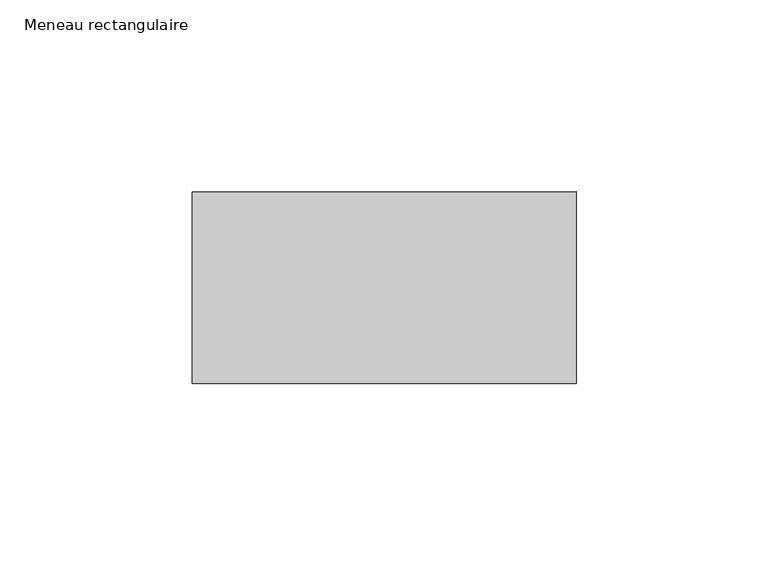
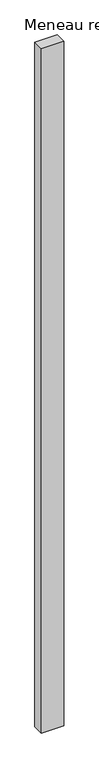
"""IFC4 building model written with IfcOpenShell, lengths in millimetres: member geometry, Meneau rectangulaire : 10x5cm aluminium laqué gris."""

from ifc_helpers import new_model, si_unit, frame, origin, place, context, project, spatial, polyline, outline, extrude, source, transform, mapped, element, save


def meneau_rectangulaire_35514530(model_context):
    return source(origin(), model_context, "Body", "SweptSolid", [
        extrude(outline(polyline([(0.0, 25.0), (0.0, -25.0), (-100.0, -25.0), (-100.0, 25.0), (0.0, 25.0)])), frame((0.0, 0.0, -3219.7903449), z_axis=(0.0, 0.0, 1.0), x_axis=(1.0, 0.0, 0.0)), (0.0, 0.0, 1.0), 3219.7903449),
    ])


if __name__ == "__main__":
    model = new_model("IFC4")
    model_context = context("Model", 3, world=origin())
    ifc_project = project(units=[si_unit("LENGTHUNIT", "METRE", prefix="MILLI")], contexts=[model_context])
    site = spatial("IfcSite", under=ifc_project)
    building = spatial("IfcBuilding", under=site)
    placement = place(None, origin())
    meneau_rectangulaire_shape = meneau_rectangulaire_35514530(model_context)
    element("IfcMember", 1, ObjectType="Meneau rectangulaire : 10x5cm aluminium laqué gris", at=placement, inside=building, context=model_context, shape_type="MappedRepresentation", body=[
        mapped(meneau_rectangulaire_shape, transform((0.0, 0.0, 0.0), x_axis=(1.0, 0.0, 0.0), y_axis=(0.0, 1.0, 0.0), z_axis=(0.0, 0.0, 1.0))),
    ])
    save(model, "model.ifc")
